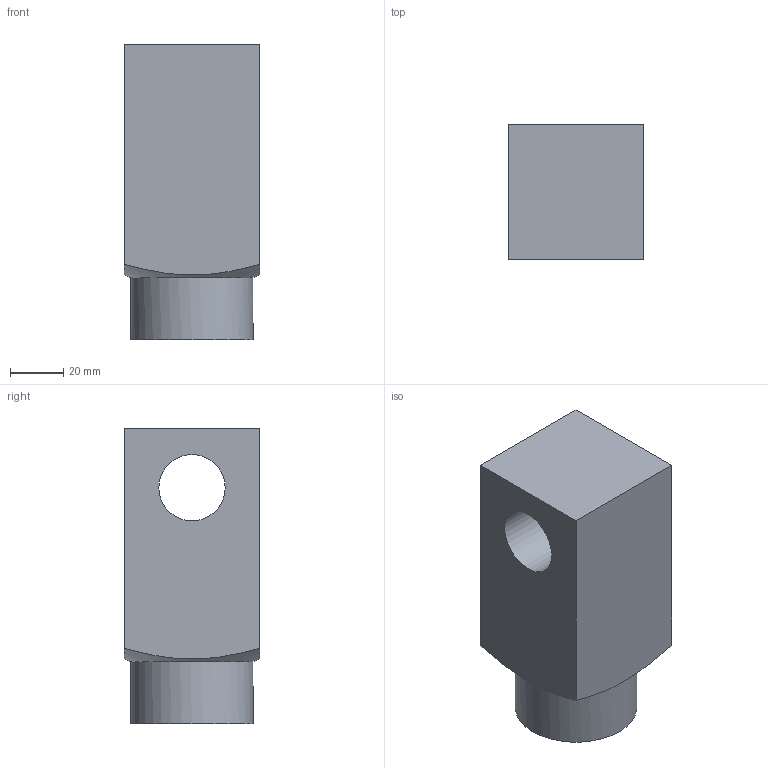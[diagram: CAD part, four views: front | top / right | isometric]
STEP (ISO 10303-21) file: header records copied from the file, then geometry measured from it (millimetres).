
FILE_DESCRIPTION(/* description */ ('Unknown'),/* implementation_level */ '2;1');
FILE_NAME(/* name */ 'WA125_WA150_I',/* time_stamp */ '2026-07-17T17:02:17+08:00',/* author */ ('Unknown'),/* organization */ ('Unknown'),/* preprocessor_version */ 'ST-DEVELOPER v16.7',/* originating_system */ 'DEX',/* authorisation */ $);
FILE_SCHEMA (('CONFIG_CONTROL_DESIGN'));
Length unit declared in the file: millimetre
Products named in the file (1): WA125_WA150_I
Bounding box: 51 x 51 x 111.5 mm (x, y, z)
Volume: 201209.5 mm3; surface area: 34358 mm2
Topology: 1 solids, 1 shells, 11 faces, 27 edges, 18 vertices
Faces by surface type: plane 6, cylinder 3, cone 2
Full cylindrical faces by diameter (mm): 25 x1, 30 x1, 46 x1
Entity records: 395 total; most frequent: CARTESIAN_POINT 73, DIRECTION 44, ORIENTED_EDGE 36, FACE_BOUND 19, EDGE_CURVE 18, EDGE_LOOP 18, AXIS2_PLACEMENT_3D 18, VERTEX_POINT 15
